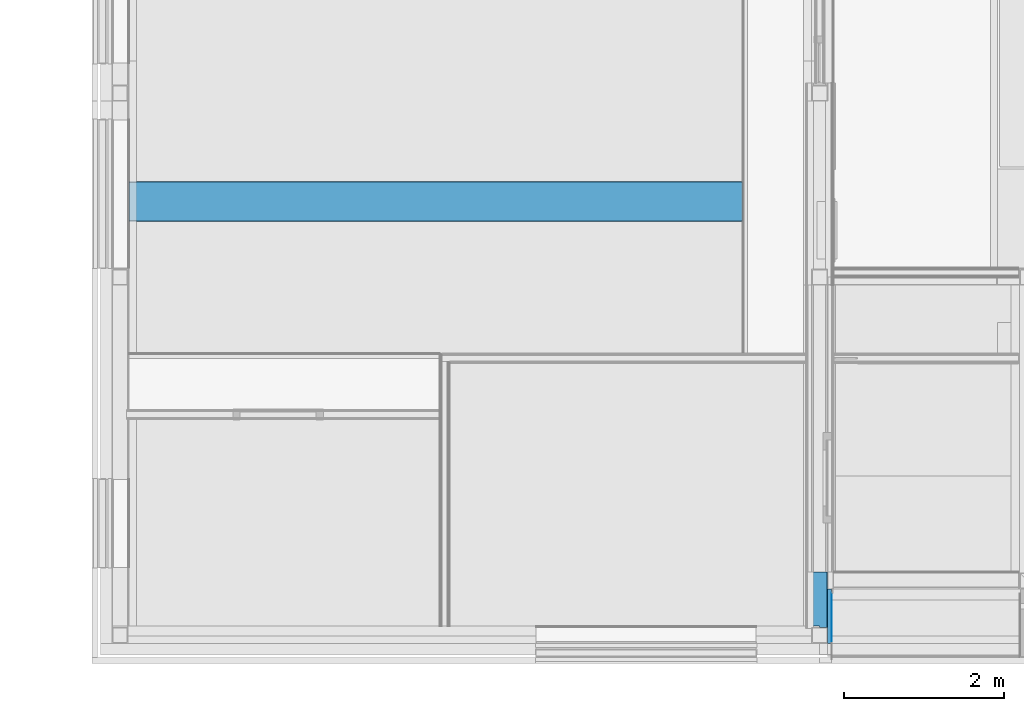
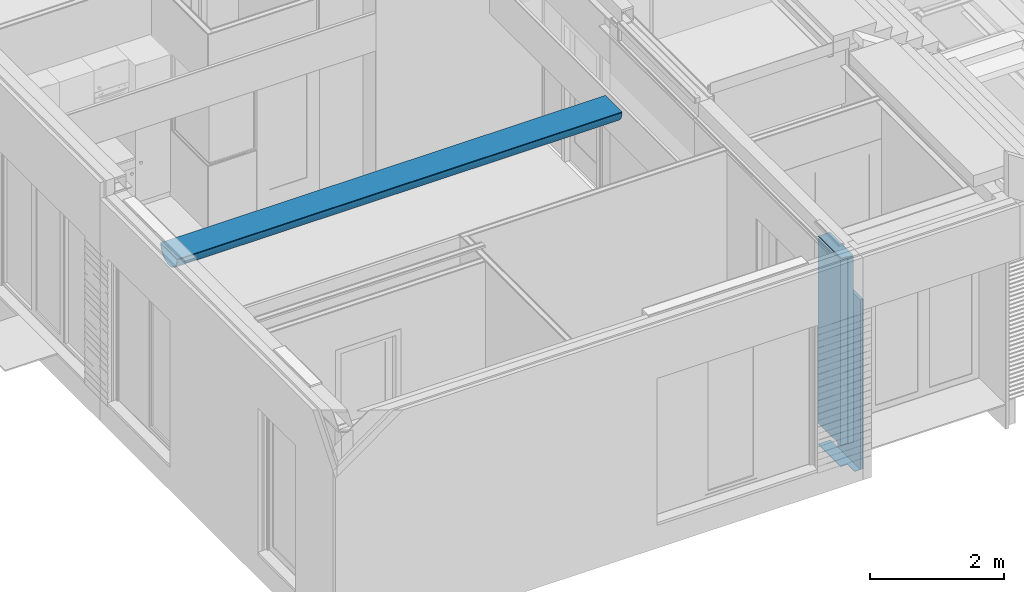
# One storey, part 40 of 165: 5 building element parts, 2 elements without a shape of their own.
"""IFC2X3 building model written with IfcOpenShell, lengths in millimetres."""

from ifc_helpers import new_model, entity, si_unit, converted_unit, derived_unit, money_unit, direction, frame, origin_with_axes, place, context, subcontext, project, spatial, faceted_brep, material, type_object, element, aggregate, save


model = new_model("IFC2X3")

# Units and contexts
model_context = context("Model", 3, precision=0.01, world=origin_with_axes(), true_north=direction((0.0, 1.0)))
body_context = subcontext(model_context, "Body", "Model", "MODEL_VIEW")
ifc_project = project(units=[si_unit("LENGTHUNIT", "METRE", prefix="MILLI"), si_unit("AREAUNIT", "SQUARE_METRE"), si_unit("VOLUMEUNIT", "CUBIC_METRE"), converted_unit("PLANEANGLEUNIT", "DEGREE", entity("IfcPlaneAngleMeasure", 0.0174532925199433), si_unit("PLANEANGLEUNIT", "RADIAN"), dimensions=[0, 0, 0, 0, 0, 0, 0]), money_unit("EUR"), converted_unit("TIMEUNIT", "Year", entity("IfcTimeMeasure", 31556926.0), si_unit("TIMEUNIT", "SECOND"), dimensions=[0, 0, 1, 0, 0, 0, 0]), si_unit("MASSUNIT", "GRAM", prefix="KILO"), si_unit("THERMODYNAMICTEMPERATUREUNIT", "DEGREE_CELSIUS"), si_unit("LUMINOUSINTENSITYUNIT", "LUMEN"), si_unit("ENERGYUNIT", "JOULE", prefix="MEGA"), derived_unit("THERMALCONDUCTANCEUNIT", [(si_unit("POWERUNIT", "WATT"), 1), (si_unit("LENGTHUNIT", "METRE"), -1), (si_unit("THERMODYNAMICTEMPERATUREUNIT", "KELVIN"), -1)]), derived_unit("SPECIFICHEATCAPACITYUNIT", [(si_unit("ENERGYUNIT", "JOULE"), 1), (si_unit("MASSUNIT", "GRAM", prefix="KILO"), -1), (si_unit("THERMODYNAMICTEMPERATUREUNIT", "KELVIN"), -1)]), derived_unit("MASSDENSITYUNIT", [(si_unit("MASSUNIT", "GRAM", prefix="KILO"), 1), (si_unit("VOLUMEUNIT", "CUBIC_METRE"), -1)])], contexts=[model_context])

# Site, building, storey
site_placement = place(None, origin_with_axes())
site = spatial("IfcSite", under=ifc_project, at=site_placement, Name="Site", CompositionType="ELEMENT")
building_placement = place(site_placement, origin_with_axes())
building = spatial("IfcBuilding", under=site, at=building_placement, Name="Naam gebouw", CompositionType="ELEMENT")
storey_placement = place(building_placement, origin_with_axes())
storey = spatial("IfcBuildingStorey", under=building, at=storey_placement, Name="Begane grond", CompositionType="ELEMENT", Elevation=0.0)

# Wall, building element parts
wall_type = type_object("IfcWallType", Name="21 Buitenwand staalplaat 268", PredefinedType="NOTDEFINED")
wall_placement = place(storey_placement, frame((8950.0, 0.0, -485.0), z_axis=(0.0, 0.0, 1.0), x_axis=(0.0, 1.0, 0.0)))
wall = element("IfcWall", 1, at=wall_placement, inside=storey, type_object=wall_type, Name="21_Wand-x")
ifc_material_1 = material(Name="Steen - Kalkzandsteen C")
building_element_part_1_placement = place(wall_placement, origin_with_axes())
building_element_part_1 = element("IfcBuildingElementPart", 2, at=building_element_part_1_placement, material=ifc_material_1, Name="Steen - Kalkzandsteen C", context=body_context, shape_type="Brep", body=[
    faceted_brep([(893.9999901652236, 214.0000000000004, 5.000000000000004), (893.9999901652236, -2.042810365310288e-09, 5.000000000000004), (893.9999901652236, 0.0, 0.0), (893.9999901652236, 214.0000000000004, 0.0), (679.9999999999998, 0.0, 5.000000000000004), (214.0000000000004, 214.0000000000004, 5.000000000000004), (214.0000000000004, 99.99999999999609, 5.000000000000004), (0.0, 99.99999999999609, 5.000000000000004), (0.0, 0.0, 5.000000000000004), (0.0, 0.0, 0.0), (0.0, 99.99999999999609, 0.0), (214.0000000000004, 99.99999999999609, 0.0), (214.0000000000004, 214.0000000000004, 0.0)], [[[0, 1, 2, 3]], [[4, 1, 0, 5, 6, 7, 8]], [[4, 8, 9, 2, 1]], [[10, 11, 12, 3, 2, 9]], [[5, 0, 3, 12]], [[6, 5, 12, 11]], [[7, 6, 11, 10]], [[8, 7, 10, 9]]]),
    faceted_brep([(199.9999999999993, 0.0, 384.9999999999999), (679.9999999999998, 0.0, 384.9999999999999), (893.9999901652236, -1.572182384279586e-07, 384.9999999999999), (893.9999901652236, -1.537472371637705e-06, 3765.000002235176), (199.9999999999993, 0.0, 3765.000002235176), (893.9999901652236, 214.0000000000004, 384.9999999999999), (199.9999999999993, 99.99999999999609, 384.9999999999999), (214.0000000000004, 99.99999999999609, 384.9999999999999), (214.0000000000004, 214.0000000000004, 384.9999999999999), (893.9999901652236, 214.0000000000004, 3765.000002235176), (214.0000000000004, 214.0000000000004, 3765.000002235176), (214.0000000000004, 99.99999999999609, 3765.000002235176), (199.9999999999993, 99.99999999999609, 3765.000002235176)], [[[0, 1, 2, 3, 4]], [[5, 2, 1, 0, 6, 7, 8]], [[2, 5, 9, 3]], [[10, 11, 12, 4, 3, 9]], [[6, 0, 4, 12]], [[7, 6, 12, 11]], [[8, 7, 11, 10]], [[5, 8, 10, 9]]]),
    faceted_brep([(214.0000000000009, 99.99999999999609, 3795.000000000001), (199.9999999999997, 99.99999999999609, 3795.0), (199.9999999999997, 4.999999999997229, 3795.0), (893.9999901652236, 4.999999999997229, 3795.0), (893.9999901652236, 194.9999999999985, 3795.0), (214.0000000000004, 194.9999999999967, 3795.0), (214.0000000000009, 99.99999999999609, 3790.000002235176), (199.9999999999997, 99.99999999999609, 3790.000002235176), (199.9999999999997, 4.999999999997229, 3790.000002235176), (893.9999901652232, 4.999999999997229, 3790.000002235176), (893.9999901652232, 194.9999999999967, 3790.000002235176), (214.0000000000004, 194.9999999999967, 3790.000002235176)], [[[0, 1, 2, 3, 4, 5]], [[1, 0, 6, 7]], [[1, 7, 8, 2]], [[9, 3, 2, 8]], [[4, 3, 9, 10]], [[11, 5, 4, 10]], [[0, 5, 11, 6]], [[6, 11, 10, 9, 8, 7]]]),
    faceted_brep([(214.0000000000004, 214.0000000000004, 3795.0), (214.0000000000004, 202.9999999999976, 3795.0), (893.9999901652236, 202.9999999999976, 3795.0), (893.9999901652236, 214.0000000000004, 3795.0), (679.9999999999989, 214.0000000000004, 3795.0), (214.0000000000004, 202.9999999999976, 3790.000002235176), (214.0000000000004, 214.0000000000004, 3790.000002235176), (893.9999901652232, 202.9999999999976, 3790.000002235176), (893.9999901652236, 214.0000000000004, 3790.000002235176)], [[[0, 1, 2, 3, 4]], [[5, 1, 0, 6]], [[1, 5, 7, 2]], [[3, 2, 7, 8]], [[6, 0, 4, 3, 8]], [[5, 6, 8, 7]]]),
])
ifc_material_2 = material(Name="Rockpanel RAL 1001")
building_element_part_2_placement = place(wall_placement, origin_with_axes())
building_element_part_2 = element("IfcBuildingElementPart", 3, at=building_element_part_2_placement, material=ifc_material_2, Name="Rockpanel RAL 1001", context=body_context, shape_type="Brep", body=[
    faceted_brep([(629.999999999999, -50.00000000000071, 0.0), (629.999999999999, -49.99999961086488, 3096.99999613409), (629.999999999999, -54.00000000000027, 3096.99999613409), (629.999999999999, -54.00000000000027, 0.0), (0.0, -50.00000000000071, 0.0), (-2.062252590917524e-06, -49.99999999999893, 3096.99999613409), (-2.062252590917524e-06, -54.00000000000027, 3096.99999613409), (0.0, -54.00000000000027, 0.0)], [[[0, 1, 2, 3]], [[4, 5, 1, 0]], [[5, 6, 2, 1]], [[3, 2, 6, 7]], [[0, 3, 7, 4]], [[7, 6, 5, 4]]]),
])
ifc_material_3 = material(Name="Isolatie - Glaswol zacht")
building_element_part_3_placement = place(wall_placement, origin_with_axes())
building_element_part_3 = element("IfcBuildingElementPart", 4, at=building_element_part_3_placement, material=ifc_material_3, Name="Isolatie - Glaswol zacht", context=body_context, shape_type="Brep", body=[
    faceted_brep([(679.9999999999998, 0.0, 0.0), (679.9999999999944, 0.0, 3095.0), (679.9999999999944, -49.99999963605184, 3095.0), (679.9999999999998, -50.00000000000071, 0.0), (636.5624900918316, 0.0, 3096.99999613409), (636.5624856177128, 0.0, 3095.0), (0.0, 0.0, 0.0), (-2.062252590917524e-06, 0.0, 3096.99999613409), (636.5624856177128, -50.00000000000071, 3095.0), (636.5624900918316, -50.00000000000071, 3096.99999613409), (-2.062252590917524e-06, -49.99999999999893, 3096.99999613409), (0.0, -50.00000000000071, 0.0)], [[[0, 1, 2, 3]], [[4, 5, 1, 0, 6, 7]], [[5, 8, 2, 1]], [[2, 8, 9, 10, 11, 3]], [[6, 0, 3, 11]], [[5, 4, 9, 8]], [[11, 10, 7, 6]], [[10, 9, 4, 7]]]),
])
aggregate(wall, [building_element_part_1, building_element_part_2, building_element_part_3])

# Beam, building element parts
beam_type = type_object("IfcBeamType", Name="Luchtzakken 500mm 500 x 265", PredefinedType="BEAM")
beam_placement = place(storey_placement, frame((214.0000000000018, 5525.000538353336, 3200.0), z_axis=(0.0, 0.0, 1.0), x_axis=(0.0, -1.0, 0.0)))
beam = element("IfcBeam", 5, at=beam_placement, inside=storey, type_object=beam_type, Name="_Regenwaterafvoer-x", ObjectType="BEAM")
ifc_material_4 = material(Name="ALG - ALGEMEEN")
building_element_part_4_placement = place(beam_placement, origin_with_axes())
building_element_part_4 = element("IfcBuildingElementPart", 6, at=building_element_part_4_placement, material=ifc_material_4, Name="ALG - ALGEMEEN", context=body_context, shape_type="Brep", body=[
    faceted_brep([(-250.0000000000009, 7673.500000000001, 0.0), (-246.2019382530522, 7673.500000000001, -43.41204441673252), (-246.2019382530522, 0.0, -43.41204441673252), (-250.0, 0.0, 0.0), (-240.0000000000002, 7673.500000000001, 0.0), (-236.3538607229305, 7673.500000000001, -41.67556264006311), (-225.5262289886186, 7673.500000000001, -82.08483439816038), (-207.8460969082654, 7673.500000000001, -120.0000000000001), (-183.8506663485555, 7673.500000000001, -154.2690263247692), (-154.2690263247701, 7673.500000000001, -183.8506663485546), (-120.0000000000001, 7673.500000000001, -207.8460969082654), (-82.08483439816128, 7673.500000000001, -225.5262289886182), (-41.675562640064, 7673.500000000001, -236.3538607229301), (0.0, 7673.500000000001, -240.0000000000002), (41.67556264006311, 7673.500000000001, -236.3538607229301), (82.08483439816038, 7673.500000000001, -225.5262289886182), (119.9999999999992, 7673.500000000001, -207.8460969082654), (154.2690263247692, 7673.500000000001, -183.8506663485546), (183.8506663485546, 7673.500000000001, -154.2690263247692), (207.8460969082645, 7673.500000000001, -120.0000000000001), (225.5262289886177, 7673.500000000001, -82.08483439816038), (236.3538607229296, 7673.500000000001, -41.67556264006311), (239.9999999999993, 7673.500000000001, 0.0), (249.9999999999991, 7673.500000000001, 0.0), (246.2019382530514, 7673.500000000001, -43.41204441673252), (234.9231551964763, 7673.500000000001, -85.50503583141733), (216.5063509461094, 7673.500000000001, -125.0), (191.5111107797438, 7673.500000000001, -160.6969024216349), (160.696902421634, 7673.500000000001, -191.5111107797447), (124.9999999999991, 7673.500000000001, -216.5063509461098), (85.50503583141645, 7673.500000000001, -234.9231551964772), (43.41204441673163, 7673.500000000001, -246.2019382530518), (0.0, 7673.500000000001, -250.0), (-43.41204441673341, 7673.500000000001, -246.2019382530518), (-85.50503583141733, 7673.500000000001, -234.9231551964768), (-125.0000000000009, 7673.500000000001, -216.5063509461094), (-160.6969024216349, 7673.500000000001, -191.5111107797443), (-191.5111107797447, 7673.500000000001, -160.6969024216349), (-216.5063509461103, 7673.500000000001, -125.0), (-234.9231551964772, 7673.500000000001, -85.50503583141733), (-234.9231551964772, 0.0, -85.50503583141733), (-216.5063509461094, 0.0, -125.0), (-191.5111107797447, 0.0, -160.6969024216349), (-160.6969024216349, 0.0, -191.5111107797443), (-125.0, 0.0, -216.5063509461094), (-85.50503583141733, 0.0, -234.9231551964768), (-43.41204441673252, 0.0, -246.2019382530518), (0.0, 0.0, -250.0), (43.41204441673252, 0.0, -246.2019382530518), (85.50503583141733, 0.0, -234.9231551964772), (125.0, 0.0, -216.5063509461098), (160.6969024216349, 0.0, -191.5111107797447), (191.5111107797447, 0.0, -160.6969024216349), (216.5063509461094, 0.0, -125.0), (234.9231551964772, 0.0, -85.50503583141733), (246.2019382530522, 0.0, -43.41204441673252), (250.0, 0.0, 0.0), (240.0000000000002, 0.0, 0.0), (236.3538607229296, 0.0, -41.67556264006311), (225.5262289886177, 0.0, -82.08483439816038), (207.8460969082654, 0.0, -120.0000000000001), (183.8506663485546, 0.0, -154.2690263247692), (154.2690263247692, 0.0, -183.8506663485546), (120.0000000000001, 0.0, -207.8460969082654), (82.08483439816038, 0.0, -225.5262289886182), (41.67556264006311, 0.0, -236.3538607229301), (0.0, 0.0, -240.0000000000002), (-41.67556264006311, 0.0, -236.3538607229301), (-82.08483439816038, 0.0, -225.5262289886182), (-120.0000000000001, 0.0, -207.8460969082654), (-154.2690263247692, 0.0, -183.8506663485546), (-183.8506663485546, 0.0, -154.2690263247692), (-207.8460969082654, 0.0, -120.0000000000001), (-225.5262289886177, 0.0, -82.08483439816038), (-236.3538607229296, 0.0, -41.67556264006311), (-240.0000000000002, 0.0, 0.0)], [[[0, 1, 2, 3]], [[0, 4, 5, 6, 7, 8, 9, 10, 11, 12, 13, 14, 15, 16, 17, 18, 19, 20, 21, 22, 23, 24, 25, 26, 27, 28, 29, 30, 31, 32, 33, 34, 35, 36, 37, 38, 39, 1]], [[1, 39, 40, 2]], [[3, 2, 40, 41, 42, 43, 44, 45, 46, 47, 48, 49, 50, 51, 52, 53, 54, 55, 56, 57, 58, 59, 60, 61, 62, 63, 64, 65, 66, 67, 68, 69, 70, 71, 72, 73, 74, 75]], [[4, 0, 3, 75]], [[5, 4, 75, 74]], [[6, 5, 74, 73]], [[7, 6, 73, 72]], [[8, 7, 72, 71]], [[9, 8, 71, 70]], [[10, 9, 70, 69]], [[11, 10, 69, 68]], [[12, 11, 68, 67]], [[13, 12, 67, 66]], [[14, 13, 66, 65]], [[15, 14, 65, 64]], [[16, 15, 64, 63]], [[17, 16, 63, 62]], [[18, 17, 62, 61]], [[19, 18, 61, 60]], [[20, 19, 60, 59]], [[21, 20, 59, 58]], [[22, 21, 58, 57]], [[23, 22, 57, 56]], [[24, 23, 56, 55]], [[25, 24, 55, 54]], [[26, 25, 54, 53]], [[27, 26, 53, 52]], [[28, 27, 52, 51]], [[29, 28, 51, 50]], [[30, 29, 50, 49]], [[31, 30, 49, 48]], [[32, 31, 48, 47]], [[33, 32, 47, 46]], [[34, 33, 46, 45]], [[35, 34, 45, 44]], [[36, 35, 44, 43]], [[37, 36, 43, 42]], [[38, 37, 42, 41]], [[39, 38, 41, 40]]]),
])
building_element_part_5_placement = place(beam_placement, origin_with_axes())
building_element_part_5 = element("IfcBuildingElementPart", 7, at=building_element_part_5_placement, material=ifc_material_4, Name="ALG - ALGEMEEN", context=body_context, shape_type="Brep", body=[
    faceted_brep([(249.9999999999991, 7673.500000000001, 0.0), (249.9999999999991, 7673.500000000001, 15.00000000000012), (250.0, 0.0, 15.00000000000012), (250.0, 0.0, 0.0), (239.9999999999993, 7673.500000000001, 0.0), (-240.0000000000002, 7673.500000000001, 0.0), (-250.0000000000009, 7673.500000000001, 0.0), (-250.0000000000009, 7673.500000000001, 15.00000000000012), (-250.0, 0.0, 15.00000000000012), (-250.0, 0.0, 0.0), (-240.0000000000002, 0.0, 0.0), (240.0000000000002, 0.0, 0.0)], [[[0, 1, 2, 3]], [[0, 4, 5, 6, 7, 1]], [[1, 7, 8, 2]], [[3, 2, 8, 9, 10, 11]], [[4, 0, 3, 11]], [[5, 4, 11, 10]], [[6, 5, 10, 9]], [[7, 6, 9, 8]]]),
])
aggregate(beam, [building_element_part_4, building_element_part_5])

save(model, "model.ifc")
